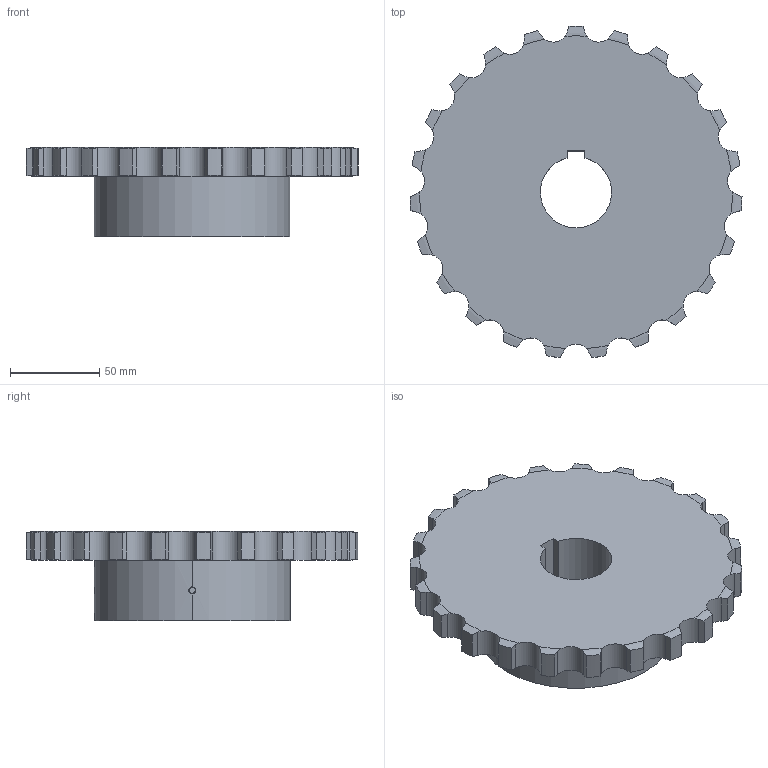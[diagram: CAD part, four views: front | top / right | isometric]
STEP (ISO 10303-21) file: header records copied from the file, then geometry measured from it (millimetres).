
FILE_DESCRIPTION((''),'2;1');
FILE_NAME('510-501-4023_PRT','2021-02-13T',('Brieden'),('Brieden'),'PRO/ENGINEER BY PARAMETRIC TECHNOLOGY CORPORATION, 2010160','PRO/ENGINEER BY PARAMETRIC TECHNOLOGY CORPORATION, 2010160','');
FILE_SCHEMA(('AUTOMOTIVE_DESIGN { 1 0 10303 214 1 1 1 1 }'));
Length unit declared in the file: millimetre
Products named in the file (1): 510-501-4023_PRT
Bounding box: 186.47 x 186.11 x 50 mm (x, y, z)
Volume: 661112.1 mm3; surface area: 77970.7 mm2
Topology: 1 solids, 1 shells, 159 faces, 459 edges, 304 vertices
Faces by surface type: cylinder 99, torus 46, plane 8, bspline 6
Entity records: 7754 total; most frequent: CARTESIAN_POINT 2385, ORIENTED_EDGE 918, DIRECTION 717, PRESENTATION_STYLE_ASSIGNMENT 460, STYLED_ITEM 460, CURVE_STYLE 459, EDGE_CURVE 459, VERTEX_POINT 304
